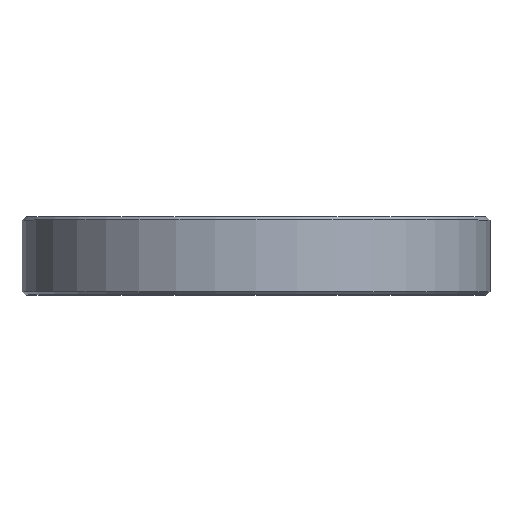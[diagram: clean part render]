
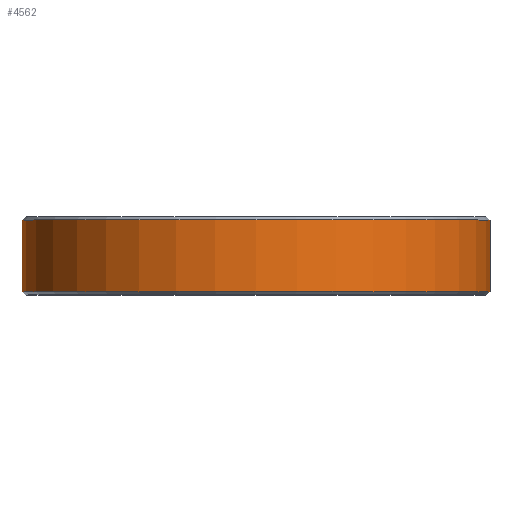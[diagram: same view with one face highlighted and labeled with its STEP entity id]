
A CAD part, top view. The second image highlights one B-rep face of the part: STEP entity #4562.
In plain terms, the highlighted cylindrical face has radius 150 mm (diameter 300 mm), a partial arc.
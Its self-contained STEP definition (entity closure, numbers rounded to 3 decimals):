
#1603=DIRECTION('',(0.,1.,0.));
#1604=VECTOR('',#1603,46.);
#1605=CARTESIAN_POINT('',(150.,-23.,0.));
#1606=LINE('',#1605,#1604);
#1607=CARTESIAN_POINT('',(0.,23.,0.));
#1608=DIRECTION('',(0.,1.,0.));
#1609=DIRECTION('',(-1.,0.,0.));
#1610=AXIS2_PLACEMENT_3D('',#1607,#1608,#1609);
#1612=CARTESIAN_POINT('',(0.,-23.,0.));
#1613=DIRECTION('',(0.,-1.,0.));
#1614=DIRECTION('',(1.,0.,0.));
#1615=AXIS2_PLACEMENT_3D('',#1612,#1613,#1614);
#1617=DIRECTION('',(0.,1.,0.));
#1618=VECTOR('',#1617,46.);
#1619=CARTESIAN_POINT('',(-150.,-23.,0.));
#1620=LINE('',#1619,#1618);
#2201=CARTESIAN_POINT('',(-150.,23.,0.));
#2202=CARTESIAN_POINT('',(150.,23.,0.));
#2203=VERTEX_POINT('',#2201);
#2204=VERTEX_POINT('',#2202);
#2209=CARTESIAN_POINT('',(-150.,-23.,0.));
#2210=CARTESIAN_POINT('',(150.,-23.,0.));
#2211=VERTEX_POINT('',#2209);
#2212=VERTEX_POINT('',#2210);
#4550=CARTESIAN_POINT('',(0.,-25.,0.));
#4551=DIRECTION('',(0.,1.,0.));
#4552=DIRECTION('',(1.,0.,0.));
#4553=AXIS2_PLACEMENT_3D('',#4550,#4551,#4552);
#4554=CYLINDRICAL_SURFACE('',#4553,150.);
#4555=ORIENTED_EDGE('',*,*,#4515,.T.);
#4556=ORIENTED_EDGE('',*,*,#4545,.F.);
#4558=ORIENTED_EDGE('',*,*,#4557,.T.);
#4559=ORIENTED_EDGE('',*,*,#4541,.T.);
#4560=EDGE_LOOP('',(#4555,#4556,#4558,#4559));
#4561=FACE_OUTER_BOUND('',#4560,.F.);
#4562=ADVANCED_FACE('',(#4561),#4554,.T.);
#1611=CIRCLE('',#1610,150.);
#1616=CIRCLE('',#1615,150.);
#4515=EDGE_CURVE('',#2203,#2204,#1611,.T.);
#4541=EDGE_CURVE('',#2211,#2203,#1620,.T.);
#4545=EDGE_CURVE('',#2212,#2204,#1606,.T.);
#4557=EDGE_CURVE('',#2212,#2211,#1616,.T.);
